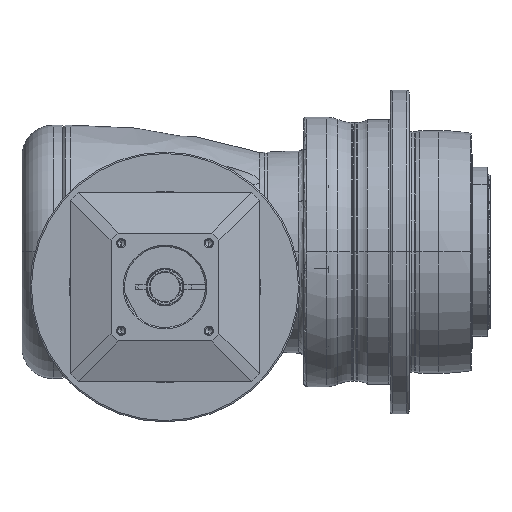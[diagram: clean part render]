
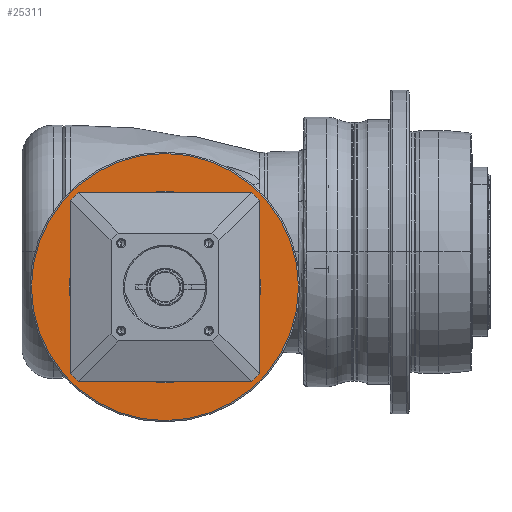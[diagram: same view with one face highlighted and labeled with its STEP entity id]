
A CAD part, front view. The second image highlights one B-rep face of the part: STEP entity #25311.
In plain terms, the highlighted planar face has unit normal (0, -1, 0) as drawn and (1, 0, 0) by its records, which use the part's own axes.
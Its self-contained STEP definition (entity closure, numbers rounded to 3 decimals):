
#23079=CARTESIAN_POINT('',(-9.,0.,0.));
#23080=DIRECTION('',(-1.,0.,0.));
#23081=DIRECTION('',(0.,-1.,0.));
#23082=AXIS2_PLACEMENT_3D('',#23079,#23080,#23081);
#23084=CARTESIAN_POINT('',(-9.,0.,0.));
#23085=DIRECTION('',(-1.,0.,0.));
#23086=DIRECTION('',(0.,1.,0.));
#23087=AXIS2_PLACEMENT_3D('',#23084,#23085,#23086);
#23089=CARTESIAN_POINT('',(-9.,0.,0.));
#23090=DIRECTION('',(-1.,0.,0.));
#23091=DIRECTION('',(0.,-1.,0.));
#23092=AXIS2_PLACEMENT_3D('',#23089,#23090,#23091);
#23094=CARTESIAN_POINT('',(-9.,0.,0.));
#23095=DIRECTION('',(-1.,0.,0.));
#23096=DIRECTION('',(0.,1.,0.));
#23097=AXIS2_PLACEMENT_3D('',#23094,#23095,#23096);
#23868=CARTESIAN_POINT('',(-9.,-49.5,0.));
#23869=CARTESIAN_POINT('',(-9.,49.5,0.));
#23870=VERTEX_POINT('',#23868);
#23871=VERTEX_POINT('',#23869);
#23950=CARTESIAN_POINT('',(-9.,-35.5,0.));
#23951=CARTESIAN_POINT('',(-9.,35.5,0.));
#23952=VERTEX_POINT('',#23950);
#23953=VERTEX_POINT('',#23951);
#25296=CARTESIAN_POINT('',(-9.,0.,0.));
#25297=DIRECTION('',(1.,0.,0.));
#25298=DIRECTION('',(0.,-1.,0.));
#25299=AXIS2_PLACEMENT_3D('',#25296,#25297,#25298);
#25300=PLANE('',#25299);
#25301=ORIENTED_EDGE('',*,*,#25228,.T.);
#25302=ORIENTED_EDGE('',*,*,#25213,.T.);
#25303=EDGE_LOOP('',(#25301,#25302));
#25304=FACE_OUTER_BOUND('',#25303,.F.);
#25306=ORIENTED_EDGE('',*,*,#25305,.F.);
#25308=ORIENTED_EDGE('',*,*,#25307,.F.);
#25309=EDGE_LOOP('',(#25306,#25308));
#25310=FACE_BOUND('',#25309,.F.);
#25311=ADVANCED_FACE('',(#25304,#25310),#25300,.T.);
#23083=CIRCLE('',#23082,35.5);
#23088=CIRCLE('',#23087,35.5);
#23093=CIRCLE('',#23092,49.5);
#23098=CIRCLE('',#23097,49.5);
#25213=EDGE_CURVE('',#23871,#23870,#23098,.T.);
#25228=EDGE_CURVE('',#23870,#23871,#23093,.T.);
#25305=EDGE_CURVE('',#23952,#23953,#23083,.T.);
#25307=EDGE_CURVE('',#23953,#23952,#23088,.T.);
